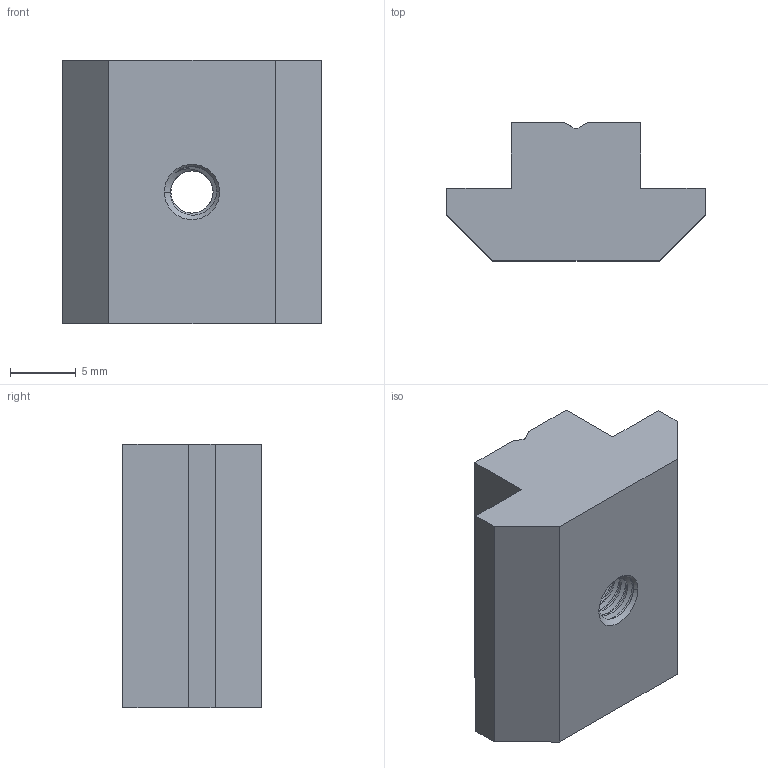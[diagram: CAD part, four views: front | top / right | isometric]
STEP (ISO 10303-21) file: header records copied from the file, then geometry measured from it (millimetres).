
FILE_DESCRIPTION (( 'STEP AP203' ), '1' );
FILE_NAME ('2125.010.001.STEP', '2023-05-24T05:18:58', ( '' ), ( '' ), 'SwSTEP 2.0', 'SolidWorks 2022', '' );
FILE_SCHEMA (( 'CONFIG_CONTROL_DESIGN' ));
Length unit declared in the file: millimetre
Products named in the file (1): 2125.010.001
Bounding box: 19.6 x 10.5 x 20 mm (x, y, z)
Volume: 2779 mm3; surface area: 1569.1 mm2
Topology: 1 solids, 1 shells, 58 faces, 171 edges, 114 vertices
Faces by surface type: cylinder 30, plane 17, bspline 6, cone 5
Entity records: 6756 total; most frequent: CARTESIAN_POINT 5381, ORIENTED_EDGE 342, DIRECTION 198, EDGE_CURVE 171, VERTEX_POINT 114, VECTOR 74, LINE 74, AXIS2_PLACEMENT_3D 62
